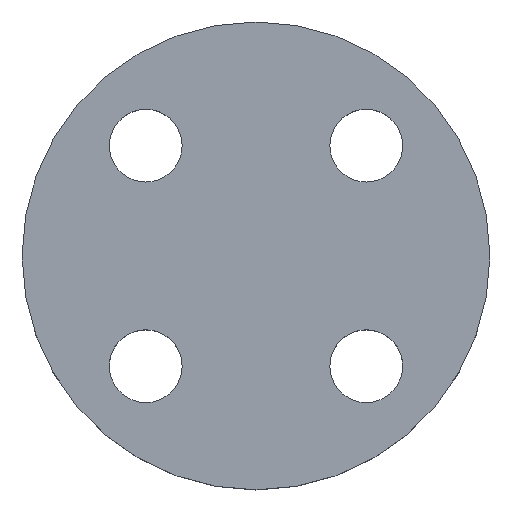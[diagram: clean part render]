
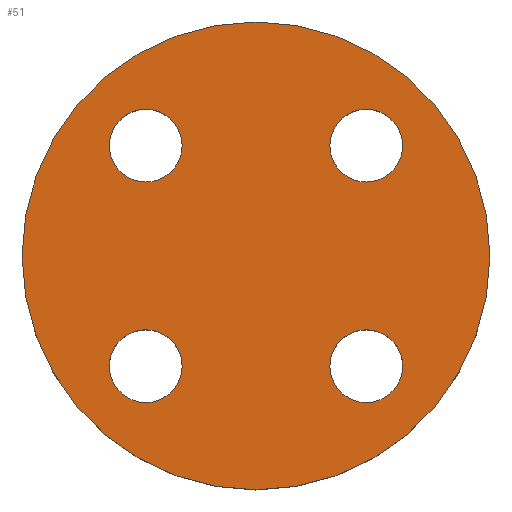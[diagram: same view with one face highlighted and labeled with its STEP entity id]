
A CAD part, top view. The second image highlights one B-rep face of the part: STEP entity #51.
In plain terms, the highlighted planar face has unit normal (0, 0, 1).
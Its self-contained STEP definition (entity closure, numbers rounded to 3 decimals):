
#4 = CARTESIAN_POINT ( 'NONE',  ( -21.213, 21.213, 0. ) ) ;
#15 = AXIS2_PLACEMENT_3D ( 'NONE', #4, #43, #38 ) ;
#19 = CIRCLE ( 'NONE', #52, 7. ) ;
#20 = AXIS2_PLACEMENT_3D ( 'NONE', #343, #344, #345 ) ;
#32 = AXIS2_PLACEMENT_3D ( 'NONE', #368, #369, #370 ) ;
#33 = EDGE_CURVE ( 'NONE', #190, #296, #100, .T. ) ;
#34 = ORIENTED_EDGE ( 'NONE', *, *, #134, .T. ) ;
#37 = AXIS2_PLACEMENT_3D ( 'NONE', #447, #453, #455 ) ;
#38 = DIRECTION ( 'NONE',  ( -1., 0., 0. ) ) ;
#43 = DIRECTION ( 'NONE',  ( 0., 0., -1. ) ) ;
#51 = ADVANCED_FACE ( 'NONE', ( #362, #363, #364, #365, #366 ), #367, .T. ) ;
#52 = AXIS2_PLACEMENT_3D ( 'NONE', #484, #485, #486 ) ;
#55 = CIRCLE ( 'NONE', #520, 7. ) ;
#65 = AXIS2_PLACEMENT_3D ( 'NONE', #440, #441, #442 ) ;
#100 = CIRCLE ( 'NONE', #20, 7. ) ;
#106 = CIRCLE ( 'NONE', #15, 7. ) ;
#114 = VERTEX_POINT ( 'NONE', #402 ) ;
#121 = AXIS2_PLACEMENT_3D ( 'NONE', #479, #480, #481 ) ;
#122 = EDGE_CURVE ( 'NONE', #203, #301, #312, .T. ) ;
#128 = CIRCLE ( 'NONE', #121, 7. ) ;
#134 = EDGE_CURVE ( 'NONE', #217, #286, #231, .T. ) ;
#147 = EDGE_LOOP ( 'NONE', ( #191, #194 ) ) ;
#165 = AXIS2_PLACEMENT_3D ( 'NONE', #491, #501, #502 ) ;
#168 = EDGE_CURVE ( 'NONE', #286, #217, #208, .T. ) ;
#173 = AXIS2_PLACEMENT_3D ( 'NONE', #414, #415, #416 ) ;
#175 = EDGE_CURVE ( 'NONE', #296, #190, #226, .T. ) ;
#178 = ORIENTED_EDGE ( 'NONE', *, *, #228, .T. ) ;
#181 = ORIENTED_EDGE ( 'NONE', *, *, #454, .T. ) ;
#182 = ORIENTED_EDGE ( 'NONE', *, *, #175, .T. ) ;
#183 = ORIENTED_EDGE ( 'NONE', *, *, #33, .T. ) ;
#188 = ORIENTED_EDGE ( 'NONE', *, *, #545, .T. ) ;
#189 = ORIENTED_EDGE ( 'NONE', *, *, #122, .T. ) ;
#190 = VERTEX_POINT ( 'NONE', #464 ) ;
#191 = ORIENTED_EDGE ( 'NONE', *, *, #240, .T. ) ;
#194 = ORIENTED_EDGE ( 'NONE', *, *, #249, .T. ) ;
#196 = ORIENTED_EDGE ( 'NONE', *, *, #168, .T. ) ;
#203 = VERTEX_POINT ( 'NONE', #470 ) ;
#208 = CIRCLE ( 'NONE', #65, 45. ) ;
#217 = VERTEX_POINT ( 'NONE', #471 ) ;
#225 = AXIS2_PLACEMENT_3D ( 'NONE', #410, #411, #412 ) ;
#226 = CIRCLE ( 'NONE', #37, 7. ) ;
#228 = EDGE_CURVE ( 'NONE', #277, #263, #128, .T. ) ;
#231 = CIRCLE ( 'NONE', #173, 45. ) ;
#240 = EDGE_CURVE ( 'NONE', #270, #114, #19, .T. ) ;
#249 = EDGE_CURVE ( 'NONE', #114, #270, #361, .T. ) ;
#263 = VERTEX_POINT ( 'NONE', #510 ) ;
#270 = VERTEX_POINT ( 'NONE', #516 ) ;
#277 = VERTEX_POINT ( 'NONE', #521 ) ;
#285 = EDGE_LOOP ( 'NONE', ( #188, #189 ) ) ;
#286 = VERTEX_POINT ( 'NONE', #525 ) ;
#291 = EDGE_LOOP ( 'NONE', ( #34, #196 ) ) ;
#292 = EDGE_LOOP ( 'NONE', ( #178, #181 ) ) ;
#296 = VERTEX_POINT ( 'NONE', #529 ) ;
#297 = EDGE_LOOP ( 'NONE', ( #182, #183 ) ) ;
#301 = VERTEX_POINT ( 'NONE', #533 ) ;
#312 = CIRCLE ( 'NONE', #225, 7. ) ;
#343 = CARTESIAN_POINT ( 'NONE',  ( -21.213, -21.213, 0. ) ) ;
#344 = DIRECTION ( 'NONE',  ( 0., 0., -1. ) ) ;
#345 = DIRECTION ( 'NONE',  ( -1., 0., 0. ) ) ;
#361 = CIRCLE ( 'NONE', #165, 7. ) ;
#362 = FACE_BOUND ( 'NONE', #292, .T. ) ;
#363 = FACE_BOUND ( 'NONE', #297, .T. ) ;
#364 = FACE_BOUND ( 'NONE', #285, .T. ) ;
#365 = FACE_BOUND ( 'NONE', #147, .T. ) ;
#366 = FACE_OUTER_BOUND ( 'NONE', #291, .T. ) ;
#367 = PLANE ( 'NONE',  #32 ) ;
#368 = CARTESIAN_POINT ( 'NONE',  ( 0., 0., 0. ) ) ;
#369 = DIRECTION ( 'NONE',  ( 0., 0., 1. ) ) ;
#370 = DIRECTION ( 'NONE',  ( 1., 0., 0. ) ) ;
#402 = CARTESIAN_POINT ( 'NONE',  ( 14.213, 21.213, 0. ) ) ;
#410 = CARTESIAN_POINT ( 'NONE',  ( -21.213, 21.213, 0. ) ) ;
#411 = DIRECTION ( 'NONE',  ( 0., 0., -1. ) ) ;
#412 = DIRECTION ( 'NONE',  ( -1., 0., 0. ) ) ;
#414 = CARTESIAN_POINT ( 'NONE',  ( 0., 0., 0. ) ) ;
#415 = DIRECTION ( 'NONE',  ( 0., 0., 1. ) ) ;
#416 = DIRECTION ( 'NONE',  ( 1., 0., 0. ) ) ;
#440 = CARTESIAN_POINT ( 'NONE',  ( 0., 0., 0. ) ) ;
#441 = DIRECTION ( 'NONE',  ( 0., 0., 1. ) ) ;
#442 = DIRECTION ( 'NONE',  ( 1., 0., 0. ) ) ;
#447 = CARTESIAN_POINT ( 'NONE',  ( -21.213, -21.213, 0. ) ) ;
#453 = DIRECTION ( 'NONE',  ( 0., 0., -1. ) ) ;
#454 = EDGE_CURVE ( 'NONE', #263, #277, #55, .T. ) ;
#455 = DIRECTION ( 'NONE',  ( -1., 0., 0. ) ) ;
#464 = CARTESIAN_POINT ( 'NONE',  ( -28.213, -21.213, 0. ) ) ;
#470 = CARTESIAN_POINT ( 'NONE',  ( -28.213, 21.213, 0. ) ) ;
#471 = CARTESIAN_POINT ( 'NONE',  ( 45., 0., 0. ) ) ;
#479 = CARTESIAN_POINT ( 'NONE',  ( 21.213, -21.213, 0. ) ) ;
#480 = DIRECTION ( 'NONE',  ( 0., 0., -1. ) ) ;
#481 = DIRECTION ( 'NONE',  ( -1., 0., 0. ) ) ;
#484 = CARTESIAN_POINT ( 'NONE',  ( 21.213, 21.213, 0. ) ) ;
#485 = DIRECTION ( 'NONE',  ( 0., 0., -1. ) ) ;
#486 = DIRECTION ( 'NONE',  ( -1., 0., 0. ) ) ;
#491 = CARTESIAN_POINT ( 'NONE',  ( 21.213, 21.213, 0. ) ) ;
#501 = DIRECTION ( 'NONE',  ( 0., 0., -1. ) ) ;
#502 = DIRECTION ( 'NONE',  ( -1., 0., 0. ) ) ;
#510 = CARTESIAN_POINT ( 'NONE',  ( 14.213, -21.213, 0. ) ) ;
#516 = CARTESIAN_POINT ( 'NONE',  ( 28.213, 21.213, 0. ) ) ;
#520 = AXIS2_PLACEMENT_3D ( 'NONE', #562, #563, #565 ) ;
#521 = CARTESIAN_POINT ( 'NONE',  ( 28.213, -21.213, 0. ) ) ;
#525 = CARTESIAN_POINT ( 'NONE',  ( -45., 0., 0. ) ) ;
#529 = CARTESIAN_POINT ( 'NONE',  ( -14.213, -21.213, 0. ) ) ;
#533 = CARTESIAN_POINT ( 'NONE',  ( -14.213, 21.213, 0. ) ) ;
#545 = EDGE_CURVE ( 'NONE', #301, #203, #106, .T. ) ;
#562 = CARTESIAN_POINT ( 'NONE',  ( 21.213, -21.213, 0. ) ) ;
#563 = DIRECTION ( 'NONE',  ( 0., 0., -1. ) ) ;
#565 = DIRECTION ( 'NONE',  ( -1., 0., 0. ) ) ;
